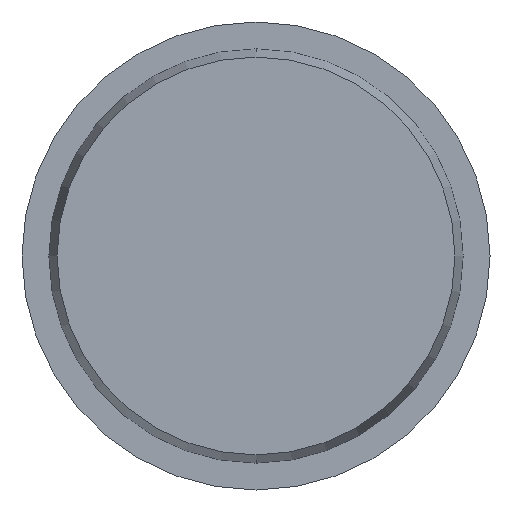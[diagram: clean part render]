
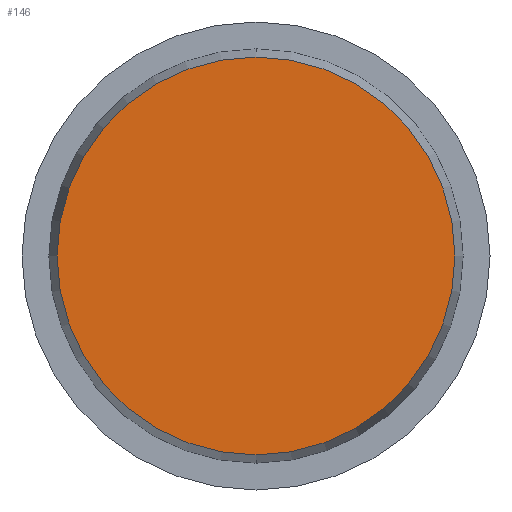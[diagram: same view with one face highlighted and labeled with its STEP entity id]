
A CAD part, front view. The second image highlights one B-rep face of the part: STEP entity #146.
In plain terms, the highlighted planar face has unit normal (0, -1, 0).
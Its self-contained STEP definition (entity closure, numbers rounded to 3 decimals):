
#94 = CIRCLE ( 'NONE', #599, 17. ) ;
#131 = CIRCLE ( 'NONE', #594, 17. ) ;
#146 = ADVANCED_FACE ( 'NONE', ( #364 ), #700, .T. ) ;
#215 = EDGE_CURVE ( 'NONE', #409, #458, #131, .T. ) ;
#220 = EDGE_CURVE ( 'NONE', #458, #409, #94, .T. ) ;
#278 = EDGE_LOOP ( 'NONE', ( #286, #336 ) ) ;
#286 = ORIENTED_EDGE ( 'NONE', *, *, #215, .F. ) ;
#336 = ORIENTED_EDGE ( 'NONE', *, *, #220, .F. ) ;
#364 = FACE_OUTER_BOUND ( 'NONE', #278, .T. ) ;
#409 = VERTEX_POINT ( 'NONE', #852 ) ;
#458 = VERTEX_POINT ( 'NONE', #834 ) ;
#583 = AXIS2_PLACEMENT_3D ( 'NONE', #1037, #926, #817 ) ;
#594 = AXIS2_PLACEMENT_3D ( 'NONE', #1085, #1087, #1086 ) ;
#599 = AXIS2_PLACEMENT_3D ( 'NONE', #1099, #1100, #1101 ) ;
#700 = PLANE ( 'NONE',  #583 ) ;
#817 = DIRECTION ( 'NONE',  ( 0., 0., -1. ) ) ;
#834 = CARTESIAN_POINT ( 'NONE',  ( 0., -11., -17. ) ) ;
#852 = CARTESIAN_POINT ( 'NONE',  ( 0., -11., 17. ) ) ;
#926 = DIRECTION ( 'NONE',  ( 0., -1., 0. ) ) ;
#1037 = CARTESIAN_POINT ( 'NONE',  ( -17., -11., 0. ) ) ;
#1085 = CARTESIAN_POINT ( 'NONE',  ( 0., -11., 0. ) ) ;
#1086 = DIRECTION ( 'NONE',  ( 0., 0., 1. ) ) ;
#1087 = DIRECTION ( 'NONE',  ( 0., 1., 0. ) ) ;
#1099 = CARTESIAN_POINT ( 'NONE',  ( 0., -11., 0. ) ) ;
#1100 = DIRECTION ( 'NONE',  ( 0., 1., 0. ) ) ;
#1101 = DIRECTION ( 'NONE',  ( 0., 0., 1. ) ) ;
